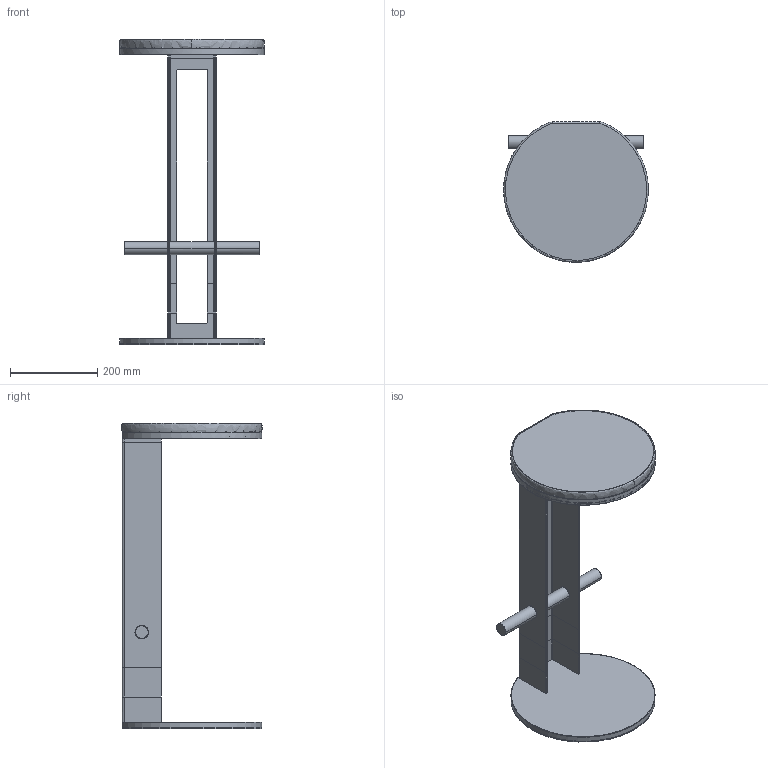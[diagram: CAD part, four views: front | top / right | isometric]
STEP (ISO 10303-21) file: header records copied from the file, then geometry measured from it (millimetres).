
FILE_DESCRIPTION(/* description */ (''),/* implementation_level */ '2;1');
FILE_NAME(/* name */ '2ILAUL~W',/* time_stamp */ '2017-09-28T10:38:50+02:00',/* author */ (''),/* organization */ (''),/* preprocessor_version */ 'ST-DEVELOPER v15',/* originating_system */ '',/* authorisation */ '');
FILE_SCHEMA (('AUTOMOTIVE_DESIGN'));
Length unit declared in the file: millimetre
Products named in the file (1): Document
Bounding box: 331.42 x 321.58 x 699.02 mm (x, y, z)
Volume: 2391100.8 mm3; surface area: 899996.4 mm2
Topology: 5 solids, 6 shells, 500 faces, 1143 edges, 634 vertices
Faces by surface type: bspline 337, plane 163
Entity records: 19670 total; most frequent: CARTESIAN_POINT 13012, ORIENTED_EDGE 2224, EDGE_CURVE 1119, VERTEX_POINT 634, B_SPLINE_CURVE_WITH_KNOTS 528, EDGE_LOOP 518, ADVANCED_FACE 500, FACE_OUTER_BOUND 500
